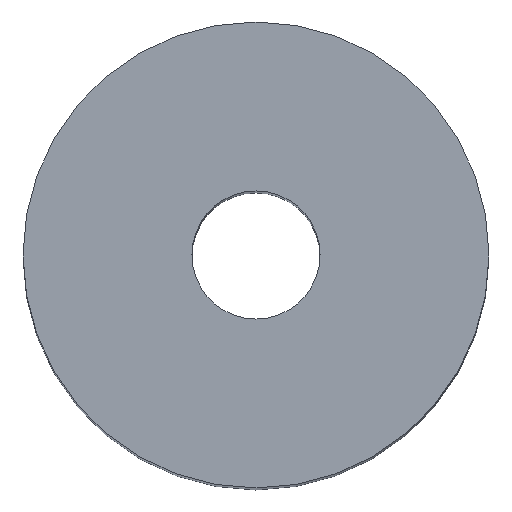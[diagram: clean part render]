
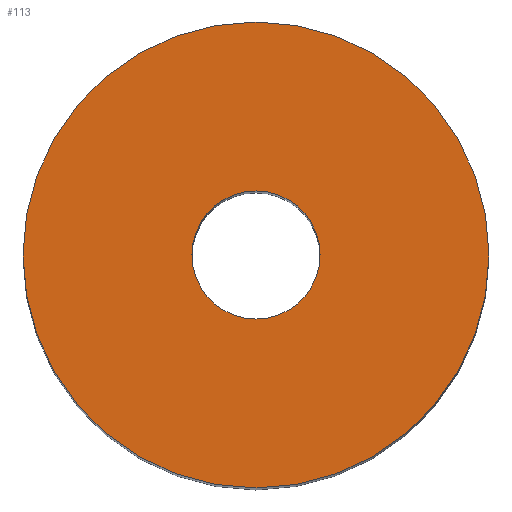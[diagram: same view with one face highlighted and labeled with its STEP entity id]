
A CAD part, top view. The second image highlights one B-rep face of the part: STEP entity #113.
In plain terms, the highlighted planar face has unit normal (0, 0, 1).
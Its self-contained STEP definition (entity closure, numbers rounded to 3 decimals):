
#113=ADVANCED_FACE('',(#121,#122),#119,.T.);
#119=PLANE('',#190);
#121=FACE_BOUND('',#125,.T.);
#122=FACE_BOUND('',#126,.T.);
#125=EDGE_LOOP('',(#133,#134));
#126=EDGE_LOOP('',(#135,#136));
#133=ORIENTED_EDGE('',*,*,#165,.T.);
#134=ORIENTED_EDGE('',*,*,#166,.T.);
#135=ORIENTED_EDGE('',*,*,#167,.F.);
#136=ORIENTED_EDGE('',*,*,#168,.F.);
#157=VERTEX_POINT('',#236);
#158=VERTEX_POINT('',#237);
#159=VERTEX_POINT('',#240);
#160=VERTEX_POINT('',#241);
#165=EDGE_CURVE('',#157,#158,#177,.T.);
#166=EDGE_CURVE('',#158,#157,#178,.T.);
#167=EDGE_CURVE('',#159,#160,#179,.T.);
#168=EDGE_CURVE('',#160,#159,#180,.T.);
#177=CIRCLE('',#186,40.);
#178=CIRCLE('',#187,40.);
#179=CIRCLE('',#188,11.);
#180=CIRCLE('',#189,11.);
#186=AXIS2_PLACEMENT_3D('',#235,#202,#203);
#187=AXIS2_PLACEMENT_3D('',#238,#204,#205);
#188=AXIS2_PLACEMENT_3D('',#239,#206,#207);
#189=AXIS2_PLACEMENT_3D('',#242,#208,#209);
#190=AXIS2_PLACEMENT_3D('',#243,#210,#211);
#202=DIRECTION('',(0.,0.,1.));
#203=DIRECTION('',(0.,1.,0.));
#204=DIRECTION('',(0.,0.,1.));
#205=DIRECTION('',(0.,-1.,0.));
#206=DIRECTION('',(0.,0.,1.));
#207=DIRECTION('',(0.,-1.,0.));
#208=DIRECTION('',(0.,0.,1.));
#209=DIRECTION('',(0.,1.,0.));
#210=DIRECTION('',(0.,0.,1.));
#211=DIRECTION('',(0.,1.,0.));
#235=CARTESIAN_POINT('',(0.,0.,200.));
#236=CARTESIAN_POINT('',(-40.,0.,200.));
#237=CARTESIAN_POINT('',(40.,0.,200.));
#238=CARTESIAN_POINT('',(0.,0.,200.));
#239=CARTESIAN_POINT('',(0.,0.,200.));
#240=CARTESIAN_POINT('',(11.,0.,200.));
#241=CARTESIAN_POINT('',(-11.,0.,200.));
#242=CARTESIAN_POINT('',(0.,0.,200.));
#243=CARTESIAN_POINT('',(0.,0.,200.));
